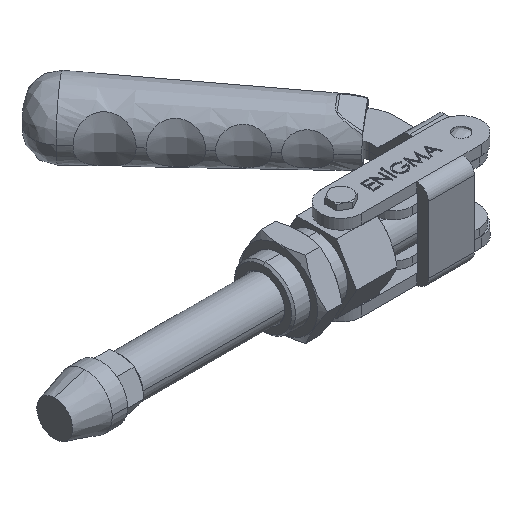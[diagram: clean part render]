
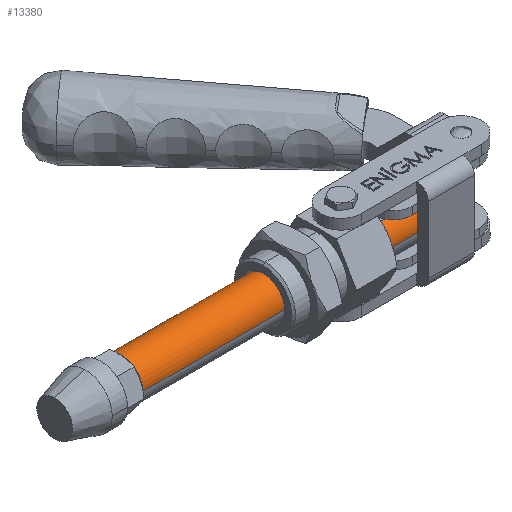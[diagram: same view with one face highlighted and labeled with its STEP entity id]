
A CAD part, isometric view. The second image highlights one B-rep face of the part: STEP entity #13380.
In plain terms, the highlighted cylindrical face has radius 8 mm (diameter 16 mm), a partial arc.
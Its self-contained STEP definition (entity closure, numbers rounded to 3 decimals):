
#210 = AXIS2_PLACEMENT_3D ( 'NONE', #6470, #10915, #3233 ) ;
#460 = VERTEX_POINT ( 'NONE', #13527 ) ;
#554 = VERTEX_POINT ( 'NONE', #12119 ) ;
#1048 = EDGE_CURVE ( 'NONE', #460, #10539, #19692, .T. ) ;
#1298 = VECTOR ( 'NONE', #10652, 1000. ) ;
#1421 = EDGE_CURVE ( 'NONE', #8679, #4951, #5819, .T. ) ;
#2053 = CARTESIAN_POINT ( 'NONE',  ( 25.5, 0., 0. ) ) ;
#2134 = EDGE_CURVE ( 'NONE', #4823, #8679, #8734, .T. ) ;
#2868 = DIRECTION ( 'NONE',  ( 1., 0., 0. ) ) ;
#3162 = CARTESIAN_POINT ( 'NONE',  ( 115.5, 0., 0. ) ) ;
#3233 = DIRECTION ( 'NONE',  ( 0., 1., 0. ) ) ;
#3448 = AXIS2_PLACEMENT_3D ( 'NONE', #2053, #5113, #19348 ) ;
#3624 = ORIENTED_EDGE ( 'NONE', *, *, #1421, .T. ) ;
#4065 = EDGE_CURVE ( 'NONE', #4951, #460, #8634, .T. ) ;
#4223 = CARTESIAN_POINT ( 'NONE',  ( 116., 8., 0. ) ) ;
#4823 = VERTEX_POINT ( 'NONE', #16884 ) ;
#4951 = VERTEX_POINT ( 'NONE', #13532 ) ;
#5113 = DIRECTION ( 'NONE',  ( 1., 0., 0. ) ) ;
#5440 = EDGE_CURVE ( 'NONE', #18872, #554, #6387, .T. ) ;
#5819 = LINE ( 'NONE', #13492, #16167 ) ;
#6284 = AXIS2_PLACEMENT_3D ( 'NONE', #10344, #10435, #8926 ) ;
#6292 = ORIENTED_EDGE ( 'NONE', *, *, #9849, .F. ) ;
#6365 = ORIENTED_EDGE ( 'NONE', *, *, #2134, .T. ) ;
#6387 = CIRCLE ( 'NONE', #19309, 8. ) ;
#6470 = CARTESIAN_POINT ( 'NONE',  ( 0.5, 0., 0. ) ) ;
#6614 = ORIENTED_EDGE ( 'NONE', *, *, #15823, .T. ) ;
#6915 = VECTOR ( 'NONE', #10381, 1000. ) ;
#7106 = CYLINDRICAL_SURFACE ( 'NONE', #6284, 8. ) ;
#8277 = DIRECTION ( 'NONE',  ( 1., 0., 0. ) ) ;
#8435 = ORIENTED_EDGE ( 'NONE', *, *, #4065, .T. ) ;
#8634 = CIRCLE ( 'NONE', #3448, 8. ) ;
#8679 = VERTEX_POINT ( 'NONE', #16375 ) ;
#8734 = CIRCLE ( 'NONE', #13882, 8. ) ;
#8926 = DIRECTION ( 'NONE',  ( 0., 1., 0. ) ) ;
#9333 = DIRECTION ( 'NONE',  ( -1., 0., 0. ) ) ;
#9849 = EDGE_CURVE ( 'NONE', #4823, #554, #18353, .T. ) ;
#10344 = CARTESIAN_POINT ( 'NONE',  ( 116., 0., 0. ) ) ;
#10381 = DIRECTION ( 'NONE',  ( 1., 0., 0. ) ) ;
#10399 = ORIENTED_EDGE ( 'NONE', *, *, #19356, .T. ) ;
#10435 = DIRECTION ( 'NONE',  ( 1., 0., 0. ) ) ;
#10535 = FACE_OUTER_BOUND ( 'NONE', #16670, .T. ) ;
#10539 = VERTEX_POINT ( 'NONE', #11176 ) ;
#10652 = DIRECTION ( 'NONE',  ( 1., 0., 0. ) ) ;
#10915 = DIRECTION ( 'NONE',  ( 1., 0., 0. ) ) ;
#11176 = CARTESIAN_POINT ( 'NONE',  ( 0.5, 3.873, -7. ) ) ;
#11804 = LINE ( 'NONE', #4223, #6915 ) ;
#12101 = CARTESIAN_POINT ( 'NONE',  ( 116., 3.873, -7. ) ) ;
#12109 = ORIENTED_EDGE ( 'NONE', *, *, #5440, .T. ) ;
#12119 = CARTESIAN_POINT ( 'NONE',  ( 115.5, -8., 0. ) ) ;
#12178 = CARTESIAN_POINT ( 'NONE',  ( 116., -8., 0. ) ) ;
#13079 = VERTEX_POINT ( 'NONE', #13792 ) ;
#13380 = ADVANCED_FACE ( 'NONE', ( #10535 ), #7106, .T. ) ;
#13492 = CARTESIAN_POINT ( 'NONE',  ( 116., -3.873, -7. ) ) ;
#13527 = CARTESIAN_POINT ( 'NONE',  ( 25.5, 3.873, -7. ) ) ;
#13532 = CARTESIAN_POINT ( 'NONE',  ( 25.5, -3.873, -7. ) ) ;
#13792 = CARTESIAN_POINT ( 'NONE',  ( 0.5, 8., 0. ) ) ;
#13882 = AXIS2_PLACEMENT_3D ( 'NONE', #17578, #8277, #15955 ) ;
#14102 = CIRCLE ( 'NONE', #210, 8. ) ;
#14262 = ORIENTED_EDGE ( 'NONE', *, *, #1048, .T. ) ;
#14516 = CARTESIAN_POINT ( 'NONE',  ( 115.5, 8., 0. ) ) ;
#15596 = DIRECTION ( 'NONE',  ( 0., 1., 0. ) ) ;
#15823 = EDGE_CURVE ( 'NONE', #10539, #13079, #14102, .T. ) ;
#15955 = DIRECTION ( 'NONE',  ( 0., 1., 0. ) ) ;
#16167 = VECTOR ( 'NONE', #2868, 1000. ) ;
#16375 = CARTESIAN_POINT ( 'NONE',  ( 0.5, -3.873, -7. ) ) ;
#16551 = DIRECTION ( 'NONE',  ( -1., 0., 0. ) ) ;
#16670 = EDGE_LOOP ( 'NONE', ( #6292, #6365, #3624, #8435, #14262, #6614, #10399, #12109 ) ) ;
#16884 = CARTESIAN_POINT ( 'NONE',  ( 0.5, -8., 0. ) ) ;
#17578 = CARTESIAN_POINT ( 'NONE',  ( 0.5, 0., 0. ) ) ;
#18353 = LINE ( 'NONE', #12178, #1298 ) ;
#18872 = VERTEX_POINT ( 'NONE', #14516 ) ;
#19309 = AXIS2_PLACEMENT_3D ( 'NONE', #3162, #9333, #15596 ) ;
#19348 = DIRECTION ( 'NONE',  ( 0., 1., 0. ) ) ;
#19356 = EDGE_CURVE ( 'NONE', #13079, #18872, #11804, .T. ) ;
#19692 = LINE ( 'NONE', #12101, #19925 ) ;
#19925 = VECTOR ( 'NONE', #16551, 1000. ) ;
